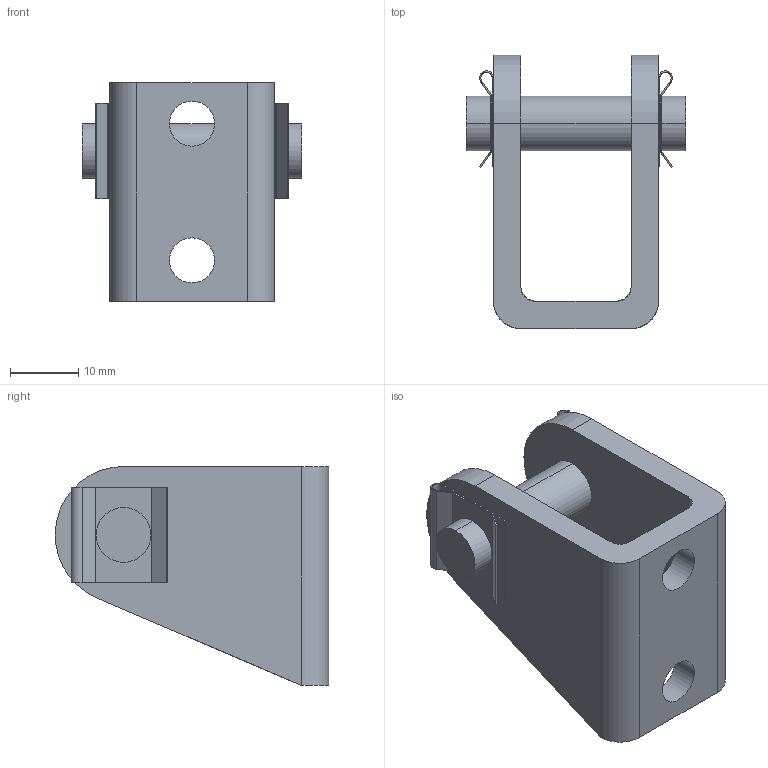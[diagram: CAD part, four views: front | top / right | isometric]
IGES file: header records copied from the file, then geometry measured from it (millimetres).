
Start section:  PTC IGES file: 1827001445\1827001445.iges
Global section: file name: 1827001445\1827001445.iges; native system: Creo Parametric by PTC Inc.; preprocessor: 2020044; author: THD3HC; organization: Unknown; date: 20231107.150057; units: millimetre
Bounding box: 32.1 x 40 x 32 mm (x, y, z)
Surface area: 6925.4 mm2 (no closed solid volume)
Topology: 0 solids, 0 shells, 58 faces, 304 edges, 304 vertices
Faces by surface type: bspline 34, revolution 24
